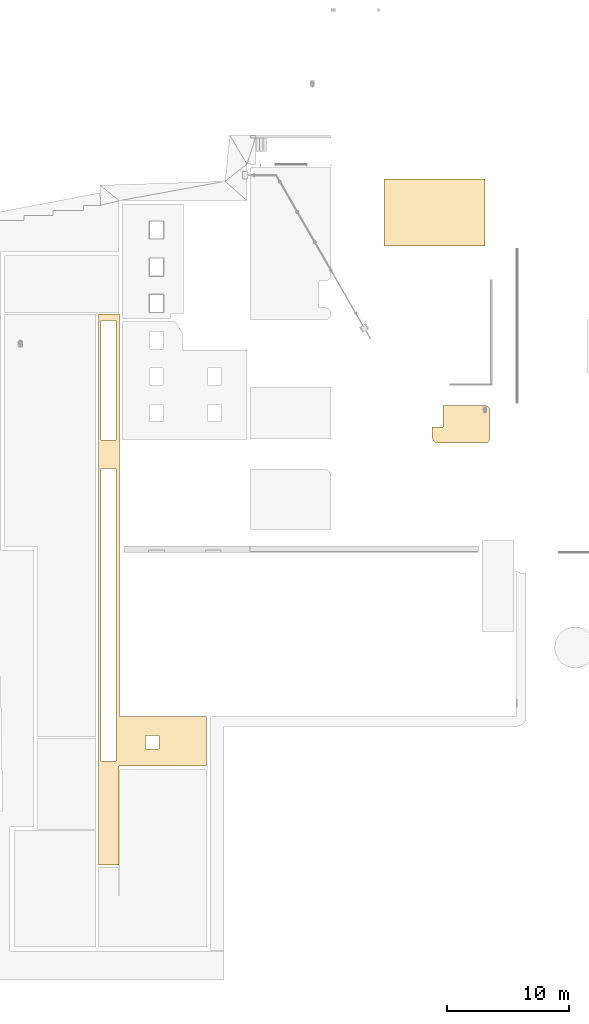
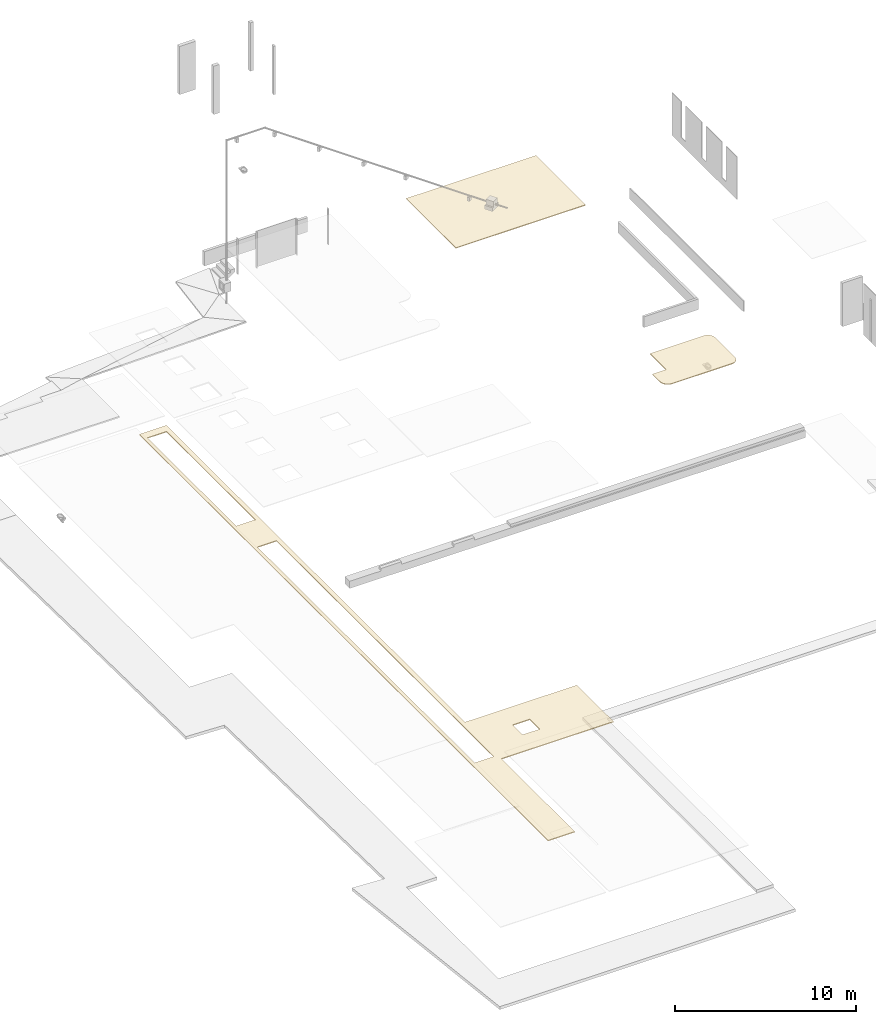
# One storey, part 4 of 6: 3 coverings.
"""IFC2X3 building model written with IfcOpenShell, lengths in metres."""

from ifc_helpers import new_model, entity, si_unit, converted_unit, derived_unit, direction, frame, frame_2d, origin, place, context, subcontext, project, spatial, polyline, circle_curve, parameter, trimmed, segment, composite_curve, rectangle, outline, extrude, material, layer, layer_set, layer_usage, type_object, element, save


model = new_model("IFC2X3")

# Units and contexts
model_context = context("Model", 3, precision=1e-05, world=origin(), true_north=direction((6.12303176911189e-17, 1.0)))
body_context = subcontext(model_context, "Body", "Model", "MODEL_VIEW")
ifc_project = project(units=[si_unit("LENGTHUNIT", "METRE"), si_unit("AREAUNIT", "SQUARE_METRE"), si_unit("VOLUMEUNIT", "CUBIC_METRE"), converted_unit("PLANEANGLEUNIT", "DEGREE", entity("IfcRatioMeasure", 0.0174532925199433), si_unit("PLANEANGLEUNIT", "RADIAN"), dimensions=[0, 0, 0, 0, 0, 0, 0]), si_unit("MASSUNIT", "GRAM", prefix="KILO"), derived_unit("MASSDENSITYUNIT", [(si_unit("MASSUNIT", "GRAM", prefix="KILO"), 1), (si_unit("LENGTHUNIT", "METRE"), -3)]), derived_unit("MOMENTOFINERTIAUNIT", [(si_unit("LENGTHUNIT", "METRE"), 4)]), si_unit("TIMEUNIT", "SECOND"), si_unit("FREQUENCYUNIT", "HERTZ"), si_unit("THERMODYNAMICTEMPERATUREUNIT", "DEGREE_CELSIUS"), derived_unit("THERMALTRANSMITTANCEUNIT", [(si_unit("MASSUNIT", "GRAM", prefix="KILO"), 1), (si_unit("THERMODYNAMICTEMPERATUREUNIT", "KELVIN"), -1), (si_unit("TIMEUNIT", "SECOND"), -3)]), derived_unit("VOLUMETRICFLOWRATEUNIT", [(si_unit("LENGTHUNIT", "METRE"), 3), (si_unit("TIMEUNIT", "SECOND"), -1)]), si_unit("ELECTRICCURRENTUNIT", "AMPERE"), si_unit("ELECTRICVOLTAGEUNIT", "VOLT"), si_unit("POWERUNIT", "WATT"), si_unit("FORCEUNIT", "NEWTON", prefix="KILO"), si_unit("ILLUMINANCEUNIT", "LUX"), si_unit("LUMINOUSFLUXUNIT", "LUMEN"), si_unit("LUMINOUSINTENSITYUNIT", "CANDELA"), derived_unit("USERDEFINED", [(si_unit("MASSUNIT", "GRAM", prefix="KILO"), -1), (si_unit("LENGTHUNIT", "METRE"), -2), (si_unit("TIMEUNIT", "SECOND"), 3), (si_unit("LUMINOUSFLUXUNIT", "LUMEN"), 1)]), derived_unit("LINEARVELOCITYUNIT", [(si_unit("LENGTHUNIT", "METRE"), 1), (si_unit("TIMEUNIT", "SECOND"), -1)]), si_unit("PRESSUREUNIT", "PASCAL"), derived_unit("USERDEFINED", [(si_unit("LENGTHUNIT", "METRE"), -2), (si_unit("MASSUNIT", "GRAM", prefix="KILO"), 1), (si_unit("TIMEUNIT", "SECOND"), -2)]), derived_unit("LINEARFORCEUNIT", [(si_unit("MASSUNIT", "GRAM", prefix="KILO"), 1), (si_unit("LENGTHUNIT", "METRE"), 1), (si_unit("TIMEUNIT", "SECOND"), -2), (si_unit("LENGTHUNIT", "METRE"), -1)]), derived_unit("PLANARFORCEUNIT", [(si_unit("MASSUNIT", "GRAM", prefix="KILO"), 1), (si_unit("LENGTHUNIT", "METRE"), 1), (si_unit("TIMEUNIT", "SECOND"), -2), (si_unit("LENGTHUNIT", "METRE"), -2)])], contexts=[model_context])

# Site, building, storey
site_placement = place(None, origin())
site = spatial("IfcSite", under=ifc_project, at=site_placement, Name="Default", CompositionType="ELEMENT")
building_placement = place(site_placement, origin())
building = spatial("IfcBuilding", under=site, at=building_placement, CompositionType="ELEMENT")
storey_placement = place(building_placement, origin())
storey = spatial("IfcBuildingStorey", under=building, at=storey_placement, Name="Niveau 00", CompositionType="ELEMENT", Elevation=0.0)

# Coverings
ifc_material_1 = material(Name="Montant métallique")
ifc_layer_1 = layer(ifc_material_1, 0.04)
ifc_material_2 = material(Name="Faux-plafond - Trame 600 x 600 -90")
ifc_layer_2 = layer(ifc_material_2, 0.01)
ifc_layer_set = layer_set([ifc_layer_1, ifc_layer_2], Name="Plafond composé:Normal")
ifc_layer_usage_1 = layer_usage(ifc_layer_set, "AXIS3", "POSITIVE", 0.0)
covering_type_1 = type_object("IfcCoveringType", Name="Plafond composé:Normal", PredefinedType="CEILING")
covering_1_placement = place(storey_placement, origin())
element("IfcCovering", 1, at=covering_1_placement, inside=storey, type_object=covering_type_1, material=ifc_layer_usage_1, Name="Plafond composé:Normal", ObjectType="Plafond composé:Normal", PredefinedType="CEILING", context=body_context, shape_type="SweptSolid", body=[
    extrude(outline(polyline([(-28.824878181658, -3.07147309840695), (16.3685611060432, -3.07147309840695), (16.3685611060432, -1.37147309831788), (8.25315853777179, -1.37147309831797), (8.25315853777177, 5.78941929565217), (4.20315853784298, 5.78941929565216), (4.20315853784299, -1.34647309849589), (-28.824878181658, -1.34647309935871), (-28.824878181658, -3.07147309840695)]), holes=[polyline([(-28.3084957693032, -2.85261478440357), (-28.3084957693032, -1.63208976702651), (-18.4862957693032, -1.63208976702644), (-18.4862957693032, -2.8526147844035), (-28.3084957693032, -2.85261478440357)]), polyline([(-16.1567030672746, -2.85006642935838), (-16.1567030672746, -1.63084981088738), (7.86549693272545, -1.6308498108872), (7.86549693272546, -2.8500664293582), (-16.1567030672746, -2.85006642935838)]), polyline([(5.74842720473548, 0.793470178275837), (5.74842720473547, 1.89196266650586), (6.84842720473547, 1.89196266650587), (6.84842720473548, 0.793470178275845), (5.74842720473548, 0.793470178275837)])]), frame((-34.9725160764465, -30.3058957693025, 2.45), z_axis=(0.0, 0.0, 1.0), x_axis=(0.0, -1.0, 0.0)), (0.0, 0.0, 1.0), 0.05),
])
ifc_layer_usage_2 = layer_usage(ifc_layer_set, "AXIS3", "POSITIVE", 0.0)
covering_type_2 = type_object("IfcCoveringType", Name="Plafond composé:Normal", PredefinedType="CEILING")
covering_2_placement = place(storey_placement, origin())
element("IfcCovering", 2, at=covering_2_placement, inside=storey, type_object=covering_type_2, material=ifc_layer_usage_2, Name="Plafond composé:Normal", ObjectType="Plafond composé:Normal", PredefinedType="CEILING", context=body_context, shape_type="SweptSolid", body=[
    extrude(rectangle(XDim=8.28668937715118, YDim=5.48825657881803, at=frame_2d((-1.15463194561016e-14, 6.43929354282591e-15), x_axis=(1.0, 0.0))), frame((-10.4713673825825, 6.85495233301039, 3.4433082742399), z_axis=(0.0, 0.0, 1.0), x_axis=(-1.0, 0.0, 0.0)), (0.0, 0.0, 1.0), 0.05),
])
ifc_layer_usage_3 = layer_usage(ifc_layer_set, "AXIS3", "POSITIVE", 0.0)
covering_type_3 = type_object("IfcCoveringType", Name="Plafond composé:Normal", PredefinedType="CEILING")
covering_3_placement = place(storey_placement, origin())
element("IfcCovering", 3, at=covering_3_placement, inside=storey, type_object=covering_type_3, material=ifc_layer_usage_3, Name="Plafond composé:Normal", ObjectType="Plafond composé:Normal", PredefinedType="CEILING", context=body_context, shape_type="SweptSolid", body=[
    extrude(outline(composite_curve([segment(polyline([(-1.53524488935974, -1.29970457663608), (2.26809047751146, -1.29970457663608)]), True, "CONTINUOUS"), segment(trimmed(circle_curve(frame_2d((2.26809047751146, -0.849706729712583), x_axis=(1.0, 0.0)), 0.449997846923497), [parameter(270.0)], [parameter(360.0)], True, "PARAMETER"), True, "CONTINUOUS"), segment(polyline([(2.71808832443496, -0.849706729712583), (2.71808832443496, 1.3519736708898)]), True, "CONTINUOUS"), segment(trimmed(circle_curve(frame_2d((2.26976306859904, 1.35197367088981), x_axis=(1.0, 0.0)), 0.448323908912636), [parameter(360.0)], [parameter(90.2146285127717)], True, "PARAMETER"), True, "CONTINUOUS"), segment(polyline([(2.26808366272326, 1.80029443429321), (-1.16503345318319, 1.80029443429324)]), True, "CONTINUOUS"), segment(polyline([(-1.16503345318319, 1.80029443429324), (-1.16503345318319, 0.0204191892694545)]), True, "CONTINUOUS"), segment(polyline([(-1.16503345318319, 0.0204191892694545), (-2.03589620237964, 0.0204191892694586)]), True, "CONTINUOUS"), segment(polyline([(-2.03589620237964, 0.0204191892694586), (-2.03589620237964, -0.744580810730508)]), True, "CONTINUOUS"), segment(polyline([(-2.03589620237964, -0.744580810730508), (-2.03524524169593, -0.799704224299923)]), True, "CONTINUOUS"), segment(trimmed(circle_curve(frame_2d((-1.53524488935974, -0.799704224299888), x_axis=(1.0, 0.0)), 0.500000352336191), [parameter(180.000000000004)], [parameter(270.0)], True, "PARAMETER"), True, "CONTINUOUS")], self_intersect=False)), frame((-8.61207300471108, -10.7794095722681, 2.55)), (0.0, 0.0, 1.0), 0.05),
    extrude(outline(composite_curve([segment(polyline([(-2.70567727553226, 1.14059635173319), (-2.70567727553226, -0.0456114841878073)]), True, "CONTINUOUS"), segment(polyline([(-2.70567727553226, -0.0456114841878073), (0.0962054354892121, -0.0456114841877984)]), True, "CONTINUOUS"), segment(polyline([(0.0962054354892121, -0.0456114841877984), (0.0962054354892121, -0.196778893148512)]), True, "CONTINUOUS"), segment(polyline([(0.0962054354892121, -0.196778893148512), (-0.854814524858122, -0.196778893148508)]), True, "CONTINUOUS"), segment(polyline([(-0.854814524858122, -0.196778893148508), (-0.854814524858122, -1.01690365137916)]), True, "CONTINUOUS"), segment(trimmed(circle_curve(frame_2d((-0.354839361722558, -1.01690364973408), x_axis=(-1.0, 0.0)), 0.500000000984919), [parameter(2.54444374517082e-13)], [parameter(90.0000000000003)], True, "PARAMETER"), True, "CONTINUOUS"), segment(polyline([(-0.354839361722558, -1.516903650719), (2.59120543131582, -1.516903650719)]), True, "CONTINUOUS"), segment(trimmed(circle_curve(frame_2d((2.59120543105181, -0.916893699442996), x_axis=(-1.0, 0.0)), 0.600000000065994), [parameter(90.0000000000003)], [parameter(180.0)], True, "PARAMETER"), True, "CONTINUOUS"), segment(polyline([(3.1912054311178, -0.916893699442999), (3.1912054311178, 1.58559635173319)]), True, "CONTINUOUS"), segment(polyline([(3.1912054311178, 1.58559635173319), (-0.845102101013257, 1.58559635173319)]), True, "CONTINUOUS"), segment(polyline([(-0.845102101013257, 1.58559635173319), (-0.845102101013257, 1.14059635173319)]), True, "CONTINUOUS"), segment(polyline([(-0.845102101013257, 1.14059635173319), (-2.70567727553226, 1.14059635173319)]), True, "CONTINUOUS")], self_intersect=False)), frame((-12.6027837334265, -10.5622114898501, 2.55), z_axis=(0.0, 0.0, -1.0), x_axis=(-1.0, 0.0, 0.0)), (0.0, 0.0, -1.0), 0.05),
])

save(model, "model.ifc")
